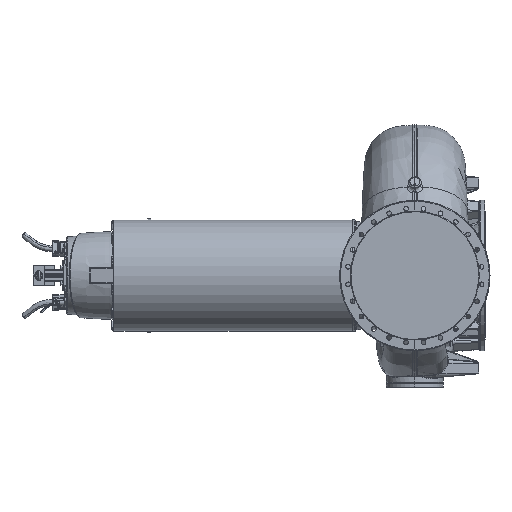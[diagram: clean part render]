
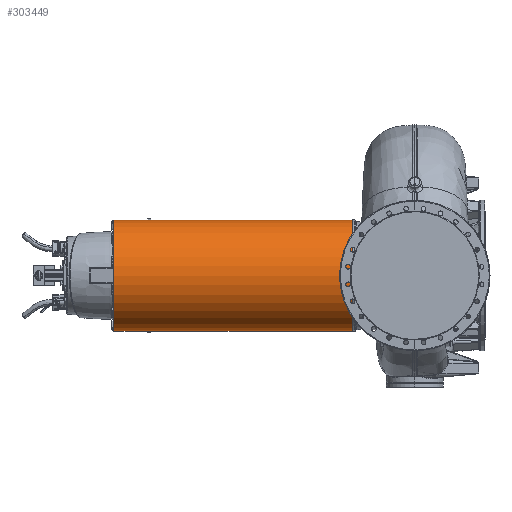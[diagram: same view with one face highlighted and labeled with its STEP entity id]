
A CAD part, left-side view. The second image highlights one B-rep face of the part: STEP entity #303449.
In plain terms, the highlighted cylindrical face has radius 391.5 mm (diameter 783 mm), a partial arc.
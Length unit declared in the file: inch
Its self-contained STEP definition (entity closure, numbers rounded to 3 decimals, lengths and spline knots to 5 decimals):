
#537 = VERTEX_POINT ( 'NONE', #228794 ) ;
#1528 = DIRECTION ( 'NONE',  ( 0., 1., 0. ) ) ;
#3196 = VERTEX_POINT ( 'NONE', #115110 ) ;
#7411 = EDGE_LOOP ( 'NONE', ( #31987, #55635, #292569, #36967, #14429, #139667, #281840, #114852, #187621, #9412, #291832, #202393 ) ) ;
#9412 = ORIENTED_EDGE ( 'NONE', *, *, #257109, .T. ) ;
#14429 = ORIENTED_EDGE ( 'NONE', *, *, #103337, .T. ) ;
#18704 = CARTESIAN_POINT ( 'NONE',  ( 0., 89.14761, -15.41339 ) ) ;
#23520 = CARTESIAN_POINT ( 'NONE',  ( 0., 74.2114, 15.41339 ) ) ;
#23812 = CARTESIAN_POINT ( 'NONE',  ( -0.37402, 73.56359, 15.40885 ) ) ;
#24870 = CARTESIAN_POINT ( 'NONE',  ( 0., 89.14761, 15.41339 ) ) ;
#27088 = VERTEX_POINT ( 'NONE', #240870 ) ;
#30429 = CARTESIAN_POINT ( 'NONE',  ( -0.37402, 73.56359, 15.40885 ) ) ;
#31987 = ORIENTED_EDGE ( 'NONE', *, *, #56403, .F. ) ;
#36508 = CARTESIAN_POINT ( 'NONE',  ( 0., 83.62205, 15.41339 ) ) ;
#36967 = ORIENTED_EDGE ( 'NONE', *, *, #267510, .T. ) ;
#37114 = LINE ( 'NONE', #256147, #67175 ) ;
#37993 = DIRECTION ( 'NONE',  ( 0., -1., 0. ) ) ;
#46714 = LINE ( 'NONE', #24870, #252445 ) ;
#51892 = EDGE_CURVE ( 'NONE', #286273, #27088, #273117, .T. ) ;
#54314 = CARTESIAN_POINT ( 'NONE',  ( 0., 17.32283, 0. ) ) ;
#55635 = ORIENTED_EDGE ( 'NONE', *, *, #97626, .T. ) ;
#56403 = EDGE_CURVE ( 'NONE', #3196, #168566, #189832, .T. ) ;
#60493 = VECTOR ( 'NONE', #305990, 39.37008 ) ;
#63206 = CARTESIAN_POINT ( 'NONE',  ( -0.37402, 73.56359, -15.40885 ) ) ;
#65028 = CARTESIAN_POINT ( 'NONE',  ( 0., 73.34765, -15.41339 ) ) ;
#65912 = VERTEX_POINT ( 'NONE', #237148 ) ;
#66847 = EDGE_CURVE ( 'NONE', #295286, #168566, #245946, .T. ) ;
#67175 = VECTOR ( 'NONE', #137110, 39.37008 ) ;
#71974 = CIRCLE ( 'NONE', #231943, 15.41339 ) ;
#72964 = DIRECTION ( 'NONE',  ( 0., 1., 0. ) ) ;
#74262 = DIRECTION ( 'NONE',  ( 0., 1., 0. ) ) ;
#75506 = LINE ( 'NONE', #18704, #60493 ) ;
#78165 = CARTESIAN_POINT ( 'NONE',  ( -0.37402, 73.56359, -15.40885 ) ) ;
#82847 = CARTESIAN_POINT ( 'NONE',  ( -0.12468, 74.13942, -15.41339 ) ) ;
#84049 = CARTESIAN_POINT ( 'NONE',  ( 0., 83.62205, 0. ) ) ;
#97626 = EDGE_CURVE ( 'NONE', #3196, #146940, #71974, .T. ) ;
#98324 = DIRECTION ( 'NONE',  ( 0., 0., 1. ) ) ;
#103337 = EDGE_CURVE ( 'NONE', #306840, #65912, #37114, .T. ) ;
#104615 = CARTESIAN_POINT ( 'NONE',  ( 0., 73.34765, 15.41339 ) ) ;
#110285 = DIRECTION ( 'NONE',  ( 0., 0., 1. ) ) ;
#111144 = DIRECTION ( 'NONE',  ( 0., 0., 1. ) ) ;
#112964 = AXIS2_PLACEMENT_3D ( 'NONE', #234604, #136473, #110285 ) ;
#114825 = VECTOR ( 'NONE', #1528, 39.37008 ) ;
#114852 = ORIENTED_EDGE ( 'NONE', *, *, #51892, .T. ) ;
#115110 = CARTESIAN_POINT ( 'NONE',  ( 0., 17.32283, -15.41339 ) ) ;
#119551 = VERTEX_POINT ( 'NONE', #281740 ) ;
#122366 = LINE ( 'NONE', #236668, #114825 ) ;
#122532 = AXIS2_PLACEMENT_3D ( 'NONE', #84049, #37993, #111144 ) ;
#136473 = DIRECTION ( 'NONE',  ( 0., 1., 0. ) ) ;
#137110 = DIRECTION ( 'NONE',  ( 0., 1., 0. ) ) ;
#139667 = ORIENTED_EDGE ( 'NONE', *, *, #234722, .T. ) ;
#146940 = VERTEX_POINT ( 'NONE', #271458 ) ;
#146974 = B_SPLINE_CURVE_WITH_KNOTS ( 'NONE', 3,
 ( #230079, #82847, #229040, #180022 ),
 .UNSPECIFIED., .F., .F.,
 ( 4, 4 ),
 ( 0., 1. ),
 .UNSPECIFIED. ) ;
#147280 = LINE ( 'NONE', #155341, #262976 ) ;
#152058 = EDGE_CURVE ( 'NONE', #161285, #286273, #46714, .T. ) ;
#155341 = CARTESIAN_POINT ( 'NONE',  ( -0.37402, 89.14761, -15.40885 ) ) ;
#161285 = VERTEX_POINT ( 'NONE', #161883 ) ;
#161883 = CARTESIAN_POINT ( 'NONE',  ( 0., 74.2114, 15.41339 ) ) ;
#162444 = CARTESIAN_POINT ( 'NONE',  ( -0.12468, 73.41963, -15.41339 ) ) ;
#168566 = VERTEX_POINT ( 'NONE', #65028 ) ;
#173660 = CARTESIAN_POINT ( 'NONE',  ( -0.24937, 73.49161, 15.41187 ) ) ;
#173924 = EDGE_CURVE ( 'NONE', #146940, #537, #122366, .T. ) ;
#180022 = CARTESIAN_POINT ( 'NONE',  ( -0.37402, 73.99547, -15.40885 ) ) ;
#184416 = CARTESIAN_POINT ( 'NONE',  ( -0.24937, 73.49161, -15.41187 ) ) ;
#187621 = ORIENTED_EDGE ( 'NONE', *, *, #192520, .F. ) ;
#189832 = LINE ( 'NONE', #266572, #212315 ) ;
#192520 = EDGE_CURVE ( 'NONE', #282208, #27088, #75506, .T. ) ;
#196522 = DIRECTION ( 'NONE',  ( 0., 1., 0. ) ) ;
#197606 = CARTESIAN_POINT ( 'NONE',  ( -0.12468, 73.41963, 15.41339 ) ) ;
#202393 = ORIENTED_EDGE ( 'NONE', *, *, #66847, .T. ) ;
#212315 = VECTOR ( 'NONE', #196522, 39.37008 ) ;
#216801 = CARTESIAN_POINT ( 'NONE',  ( -0.12468, 74.13942, 15.41339 ) ) ;
#228794 = CARTESIAN_POINT ( 'NONE',  ( 0., 73.34765, 15.41339 ) ) ;
#229040 = CARTESIAN_POINT ( 'NONE',  ( -0.24937, 74.06745, -15.41187 ) ) ;
#230079 = CARTESIAN_POINT ( 'NONE',  ( 0., 74.2114, -15.41339 ) ) ;
#230345 = CARTESIAN_POINT ( 'NONE',  ( 0., 73.34765, -15.41339 ) ) ;
#231495 = DIRECTION ( 'NONE',  ( 0., -1., 0. ) ) ;
#231943 = AXIS2_PLACEMENT_3D ( 'NONE', #54314, #74262, #98324 ) ;
#234604 = CARTESIAN_POINT ( 'NONE',  ( 0., 89.14761, 0. ) ) ;
#234722 = EDGE_CURVE ( 'NONE', #65912, #161285, #249948, .T. ) ;
#236668 = CARTESIAN_POINT ( 'NONE',  ( 0., 89.14761, 15.41339 ) ) ;
#237148 = CARTESIAN_POINT ( 'NONE',  ( -0.37402, 73.99547, 15.40885 ) ) ;
#240870 = CARTESIAN_POINT ( 'NONE',  ( 0., 83.62205, -15.41339 ) ) ;
#245265 = EDGE_CURVE ( 'NONE', #119551, #295286, #147280, .T. ) ;
#245946 = B_SPLINE_CURVE_WITH_KNOTS ( 'NONE', 3,
 ( #63206, #184416, #162444, #230345 ),
 .UNSPECIFIED., .F., .F.,
 ( 4, 4 ),
 ( 0., 1. ),
 .UNSPECIFIED. ) ;
#249948 = B_SPLINE_CURVE_WITH_KNOTS ( 'NONE', 3,
 ( #255595, #279552, #216801, #23520 ),
 .UNSPECIFIED., .F., .F.,
 ( 4, 4 ),
 ( 0., 1. ),
 .UNSPECIFIED. ) ;
#250330 = FACE_OUTER_BOUND ( 'NONE', #7411, .T. ) ;
#252445 = VECTOR ( 'NONE', #72964, 39.37008 ) ;
#255595 = CARTESIAN_POINT ( 'NONE',  ( -0.37402, 73.99547, 15.40885 ) ) ;
#256147 = CARTESIAN_POINT ( 'NONE',  ( -0.37402, 89.14761, 15.40885 ) ) ;
#257109 = EDGE_CURVE ( 'NONE', #282208, #119551, #146974, .T. ) ;
#259098 = CARTESIAN_POINT ( 'NONE',  ( 0., 74.2114, -15.41339 ) ) ;
#262976 = VECTOR ( 'NONE', #231495, 39.37008 ) ;
#264289 = B_SPLINE_CURVE_WITH_KNOTS ( 'NONE', 3,
 ( #104615, #197606, #173660, #30429 ),
 .UNSPECIFIED., .F., .F.,
 ( 4, 4 ),
 ( 0., 1. ),
 .UNSPECIFIED. ) ;
#266572 = CARTESIAN_POINT ( 'NONE',  ( 0., 89.14761, -15.41339 ) ) ;
#267510 = EDGE_CURVE ( 'NONE', #537, #306840, #264289, .T. ) ;
#271458 = CARTESIAN_POINT ( 'NONE',  ( 0., 17.32283, 15.41339 ) ) ;
#273117 = CIRCLE ( 'NONE', #122532, 15.41339 ) ;
#279552 = CARTESIAN_POINT ( 'NONE',  ( -0.24937, 74.06745, 15.41187 ) ) ;
#281740 = CARTESIAN_POINT ( 'NONE',  ( -0.37402, 73.99547, -15.40885 ) ) ;
#281840 = ORIENTED_EDGE ( 'NONE', *, *, #152058, .T. ) ;
#282208 = VERTEX_POINT ( 'NONE', #259098 ) ;
#286273 = VERTEX_POINT ( 'NONE', #36508 ) ;
#291832 = ORIENTED_EDGE ( 'NONE', *, *, #245265, .T. ) ;
#292569 = ORIENTED_EDGE ( 'NONE', *, *, #173924, .T. ) ;
#295286 = VERTEX_POINT ( 'NONE', #78165 ) ;
#298827 = CYLINDRICAL_SURFACE ( 'NONE', #112964, 15.41339 ) ;
#303449 = ADVANCED_FACE ( 'NONE', ( #250330 ), #298827, .T. ) ;
#305990 = DIRECTION ( 'NONE',  ( 0., 1., 0. ) ) ;
#306840 = VERTEX_POINT ( 'NONE', #23812 ) ;
